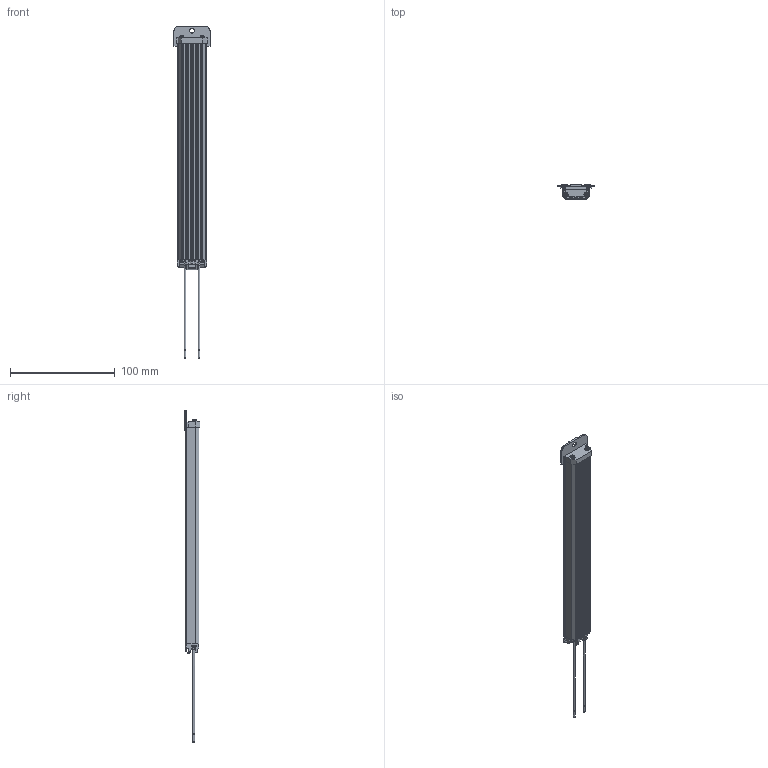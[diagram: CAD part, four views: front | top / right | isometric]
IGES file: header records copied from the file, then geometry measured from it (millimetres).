
Start section: C
Global section: file name: 020-52V-06.igs; native system: By Siemens PLM Incorporated; preprocessor: XPlus GENERIC/IGES 23.0.61; author: Author; organization: Title; date: 20260611.083404; units: millimetre
Bounding box: 34.4 x 15.15 x 316.25 mm (x, y, z)
Volume: 39622.2 mm3; surface area: 50508.5 mm2
Topology: 38 solids, 38 shells, 1354 faces, 3494 edges, 2309 vertices
Faces by surface type: bspline 1354
